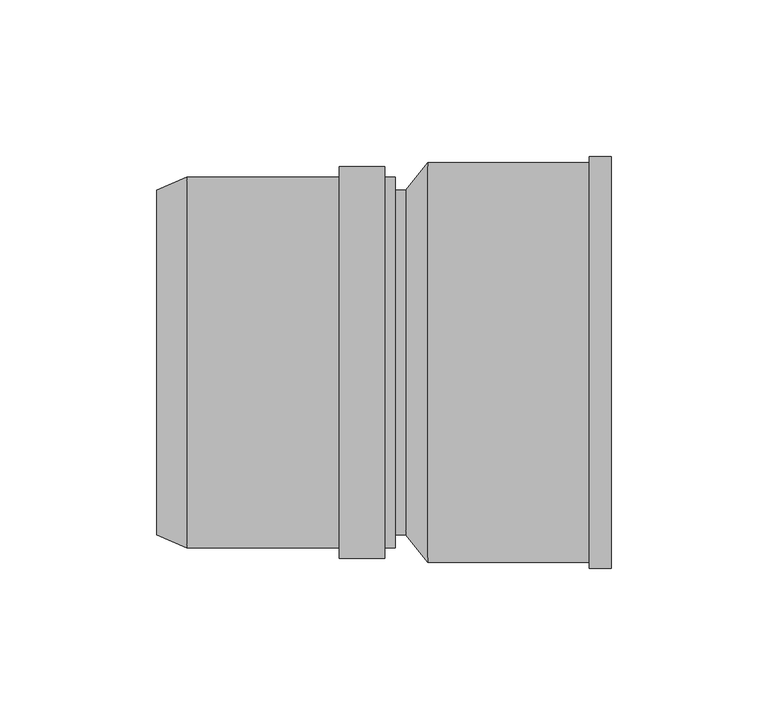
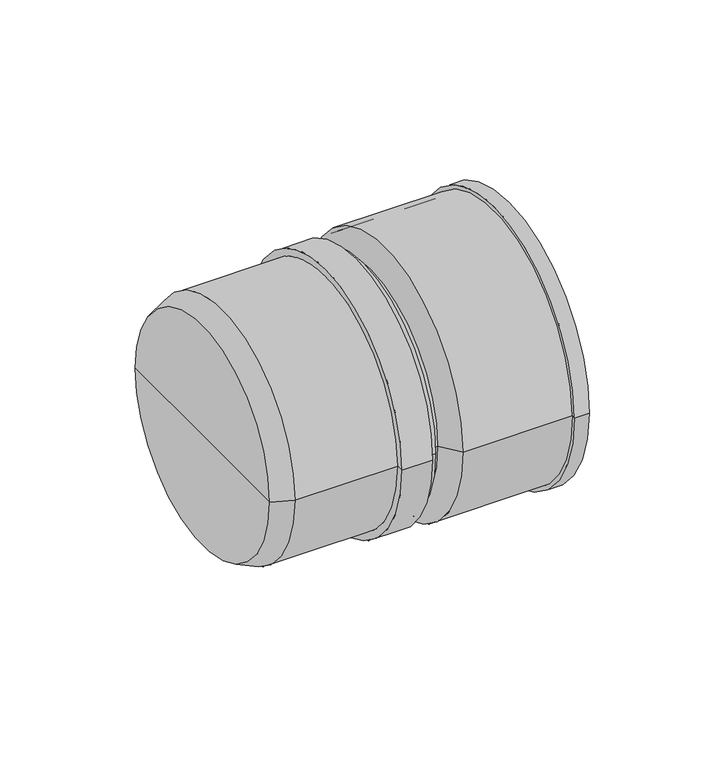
"""IFC4 building model written with IfcOpenShell, lengths in millimetres: pipe fitting geometry, pf_HTUG : pf_HTUG."""

from ifc_helpers import new_model, si_unit, point, frame, origin, origin_2d, place, context, project, spatial, polyline, circle_curve, trimmed, segment, composite_curve, outline, extrude, source, transform, mapped, element, save
from ifc_brep_helpers import plane_surface, cylinder_surface, revolved_surface, advanced_brep


def pipe_fitting_55c88e06(model_context):
    return source(origin(), model_context, "Body", "SolidModel", [
        advanced_brep(
        [(-79.3, -55.0, 0.0), (-79.3, 55.0, 0.0), (-69.8, 59.1, 0.0), (-69.8, -59.1, 0.0), (-79.3, 0.0, 0.0), (-3.3, -59.1, 0.0), (-3.3, 59.1, 0.0), (-3.3, 55.0, 0.0), (-3.3, -55.0, 0.0), (-6.7, -59.1, 0.0), (-6.7, 59.1, 0.0), (-6.7, -62.5, 0.0), (-6.7, 62.5, 0.0), (-21.2, -62.5, 0.0), (-21.2, 62.5, 0.0), (-21.2, -59.1, 0.0), (-21.2, 59.1, 0.0), (-69.8, -55.0, 0.0), (-69.8, 55.0, 0.0), (-69.8, 0.0, 0.0)],
        [
            (0, 1, circle_curve(frame((-79.3, 0.0, 0.0), z_axis=(1.0, 0.0, 0.0), x_axis=(0.0, 1.0, 0.0)), 55.0)),
            (1, 2),
            (2, 3, circle_curve(frame((-69.8, 0.0, 0.0), z_axis=(-1.0, 0.0, 0.0), x_axis=(0.0, 1.0, 0.0)), 59.1)),
            (3, 0),
            (1, 0, circle_curve(frame((-79.3, 0.0, 0.0), z_axis=(1.0, 0.0, 0.0), x_axis=(0.0, 1.0, 0.0)), 55.0)),
            (3, 2, circle_curve(frame((-69.8, 0.0, 0.0), z_axis=(-1.0, 0.0, 0.0), x_axis=(0.0, 1.0, 0.0)), 59.1)),
            (4, 1),
            (0, 4),
            (5, 6, circle_curve(frame((-3.3, 0.0, 0.0), z_axis=(1.0, 0.0, 0.0), x_axis=(0.0, 1.0, 0.0)), 59.1)),
            (6, 7),
            (7, 8, circle_curve(frame((-3.3, 0.0, 0.0), z_axis=(-1.0, 0.0, 0.0), x_axis=(0.0, 1.0, 0.0)), 55.0)),
            (8, 5),
            (6, 5, circle_curve(frame((-3.3, 0.0, 0.0), z_axis=(1.0, 0.0, 0.0), x_axis=(0.0, 1.0, 0.0)), 59.1)),
            (8, 7, circle_curve(frame((-3.3, 0.0, 0.0), z_axis=(-1.0, 0.0, 0.0), x_axis=(0.0, 1.0, 0.0)), 55.0)),
            (9, 10, circle_curve(frame((-6.7, 0.0, 0.0), z_axis=(1.0, 0.0, 0.0), x_axis=(0.0, 1.0, 0.0)), 59.1)),
            (10, 6),
            (5, 9),
            (10, 9, circle_curve(frame((-6.7, 0.0, 0.0), z_axis=(1.0, 0.0, 0.0), x_axis=(0.0, 1.0, 0.0)), 59.1)),
            (11, 12, circle_curve(frame((-6.7, 0.0, 0.0), z_axis=(1.0, 0.0, 0.0), x_axis=(0.0, 1.0, 0.0)), 62.5)),
            (12, 10),
            (9, 11),
            (12, 11, circle_curve(frame((-6.7, 0.0, 0.0), z_axis=(1.0, 0.0, 0.0), x_axis=(0.0, 1.0, 0.0)), 62.5)),
            (13, 14, circle_curve(frame((-21.2, 0.0, 0.0), z_axis=(1.0, 0.0, 0.0), x_axis=(0.0, 1.0, 0.0)), 62.5)),
            (14, 12),
            (11, 13),
            (14, 13, circle_curve(frame((-21.2, 0.0, 0.0), z_axis=(1.0, 0.0, 0.0), x_axis=(0.0, 1.0, 0.0)), 62.5)),
            (15, 16, circle_curve(frame((-21.2, 0.0, 0.0), z_axis=(1.0, 0.0, 0.0), x_axis=(0.0, 1.0, 0.0)), 59.1)),
            (16, 14),
            (13, 15),
            (16, 15, circle_curve(frame((-21.2, 0.0, 0.0), z_axis=(1.0, 0.0, 0.0), x_axis=(0.0, 1.0, 0.0)), 59.1)),
            (2, 16),
            (15, 3),
            (17, 18, circle_curve(frame((-69.8, 0.0, 0.0), z_axis=(1.0, 0.0, 0.0), x_axis=(0.0, 1.0, 0.0)), 55.0)),
            (18, 19),
            (19, 17),
            (18, 17, circle_curve(frame((-69.8, 0.0, 0.0), z_axis=(1.0, 0.0, 0.0), x_axis=(0.0, 1.0, 0.0)), 55.0)),
            (7, 18),
            (17, 8),
        ],
        [
            revolved_surface(polyline([(-69.8, 59.1, 0.0), (-79.3, 55.0, 0.0)]), (-79.3, 0.0, 0.0), (-1.0, 0.0, 0.0)),
            plane_surface(frame((-79.3, 0.0, 0.0), z_axis=(-1.0, 0.0, 0.0), x_axis=(0.0, 1.0, 0.0))),
            plane_surface(frame((-3.3, 0.0, 0.0), z_axis=(1.0, 0.0, 0.0), x_axis=(0.0, 1.0, 0.0))),
            cylinder_surface(frame((-79.3, 0.0, 0.0), z_axis=(-1.0, 0.0, 0.0), x_axis=(0.0, 1.0, 0.0)), 59.1),
            plane_surface(frame((-6.7, 0.0, 0.0), z_axis=(1.0, 0.0, 0.0), x_axis=(0.0, 1.0, 0.0))),
            cylinder_surface(frame((-79.3, 0.0, 0.0), z_axis=(-1.0, 0.0, 0.0), x_axis=(0.0, 1.0, 0.0)), 62.5),
            plane_surface(frame((-21.2, 0.0, 0.0), z_axis=(-1.0, 0.0, 0.0), x_axis=(0.0, 1.0, 0.0))),
            plane_surface(frame((-69.8, 0.0, 0.0), z_axis=(1.0, 0.0, 0.0), x_axis=(0.0, 1.0, 0.0))),
            revolved_surface(polyline([(-69.8, 55.0, 0.0), (-3.299999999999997, 55.0, 0.0)]), (-79.3, 0.0, 0.0), (-1.0, 0.0, 0.0)),
        ],
        [
            (0, [[1, 2, 3, 4]]),
            (0, [[5, -4, 6, -2]]),
            (1, [[7, -1, 8]]),
            (1, [[-8, -5, -7]]),
            (2, [[9, 10, 11, 12]]),
            (2, [[13, -12, 14, -10]]),
            (3, [[15, 16, -9, 17]]),
            (3, [[18, -17, -13, -16]]),
            (4, [[19, 20, -15, 21]]),
            (4, [[22, -21, -18, -20]]),
            (5, [[23, 24, -19, 25]]),
            (5, [[26, -25, -22, -24]]),
            (6, [[27, 28, -23, 29]]),
            (6, [[30, -29, -26, -28]]),
            (3, [[-3, 31, -27, 32]]),
            (3, [[-6, -32, -30, -31]]),
            (7, [[33, 34, 35]]),
            (7, [[36, -35, -34]]),
            (8, [[-11, 37, -33, 38]]),
            (8, [[-14, -38, -36, -37]]),
        ],
    ),
        extrude(outline(composite_curve([segment(trimmed(circle_curve(origin_2d(), 55.0), [point((-55.0, 0.0))], [point((55.0, 0.0))], False, "CARTESIAN"), True, "CONTINUOUS"), segment(trimmed(circle_curve(origin_2d(), 55.0), [point((55.0, 0.0))], [point((-55.0, 0.0))], False, "CARTESIAN"), True, "CONTINUOUS")], self_intersect=False)), frame((-3.3, 0.0, 0.0), z_axis=(1.0, 0.0, 0.0), x_axis=(0.0, 1.0, 0.0)), (0.0, 0.0, 1.0), 3.3),
        advanced_brep(
        [(65.5, -62.0, 0.0), (65.5, 62.0, 0.0), (7.0, 62.0, 0.0), (7.0, -62.0, 0.0), (65.5, -65.6, 0.0), (65.5, 65.6, 0.0), (7.0, -63.8, 0.0), (7.0, 63.8, 0.0), (58.5184027, 63.8, 0.0), (58.5184027, -63.8, 0.0), (0.0, -55.0, 0.0), (0.0, 55.0, 0.0), (0.0, 0.0, 0.0), (58.5184027, 65.6, 0.0), (58.5184027, -65.6, 0.0), (7.0, 0.0, 0.0)],
        [
            (0, 1, circle_curve(frame((65.5, 0.0, 0.0), z_axis=(1.0, 0.0, 0.0), x_axis=(0.0, 1.0, 0.0)), 62.0)),
            (1, 2),
            (2, 3, circle_curve(frame((7.0, 0.0, 0.0), z_axis=(-1.0, 0.0, 0.0), x_axis=(0.0, 1.0, 0.0)), 62.0)),
            (3, 0),
            (4, 5, circle_curve(frame((65.5, 0.0, 0.0), z_axis=(1.0, 0.0, 0.0), x_axis=(0.0, 1.0, 0.0)), 65.6)),
            (5, 1),
            (0, 4),
            (6, 7, circle_curve(frame((7.0, 0.0, 0.0), z_axis=(1.0, 0.0, 0.0), x_axis=(0.0, 1.0, 0.0)), 63.8)),
            (7, 8),
            (8, 9, circle_curve(frame((58.5184027, 0.0, 0.0), z_axis=(-1.0, 0.0, 0.0), x_axis=(0.0, 1.0, 0.0)), 63.8)),
            (9, 6),
            (10, 11, circle_curve(frame((0.0, 0.0, 0.0), z_axis=(1.0, 0.0, 0.0), x_axis=(0.0, 1.0, 0.0)), 55.0)),
            (11, 7),
            (6, 10),
            (12, 11),
            (10, 12),
            (8, 13),
            (13, 14, circle_curve(frame((58.5184027, 0.0, 0.0), z_axis=(-1.0, 0.0, 0.0), x_axis=(0.0, 1.0, 0.0)), 65.6)),
            (14, 9),
            (1, 0, circle_curve(frame((65.5, 0.0, 0.0), z_axis=(1.0, 0.0, 0.0), x_axis=(0.0, 1.0, 0.0)), 62.0)),
            (3, 2, circle_curve(frame((7.0, 0.0, 0.0), z_axis=(-1.0, 0.0, 0.0), x_axis=(0.0, 1.0, 0.0)), 62.0)),
            (5, 4, circle_curve(frame((65.5, 0.0, 0.0), z_axis=(1.0, 0.0, 0.0), x_axis=(0.0, 1.0, 0.0)), 65.6)),
            (13, 5),
            (4, 14),
            (13, 14, circle_curve(frame((58.5184027, 0.0, 0.0), z_axis=(1.0, 0.0, 0.0), x_axis=(0.0, 1.0, 0.0)), 65.6)),
            (8, 9, circle_curve(frame((58.5184027, 0.0, 0.0), z_axis=(1.0, 0.0, 0.0), x_axis=(0.0, 1.0, 0.0)), 63.8)),
            (7, 6, circle_curve(frame((7.0, 0.0, 0.0), z_axis=(1.0, 0.0, 0.0), x_axis=(0.0, 1.0, 0.0)), 63.8)),
            (11, 10, circle_curve(frame((0.0, 0.0, 0.0), z_axis=(1.0, 0.0, 0.0), x_axis=(0.0, 1.0, 0.0)), 55.0)),
            (2, 15),
            (15, 3),
        ],
        [
            revolved_surface(polyline([(7.0, 62.0, 0.0), (65.5, 62.0, 0.0)]), (71.5, 0.0, 0.0), (-1.0, 0.0, 0.0)),
            plane_surface(frame((65.5, 0.0, 0.0), z_axis=(1.0, 0.0, 0.0), x_axis=(0.0, 1.0, 0.0))),
            cylinder_surface(frame((71.5, 0.0, 0.0), z_axis=(-1.0, 0.0, 0.0), x_axis=(0.0, 1.0, 0.0)), 63.8),
            revolved_surface(polyline([(7.0, 63.8, 0.0), (0.0, 55.0, 0.0)]), (71.5, 0.0, 0.0), (-1.0, 0.0, 0.0)),
            plane_surface(frame((0.0, 0.0, 0.0), z_axis=(-1.0, 0.0, 0.0), x_axis=(0.0, 1.0, 0.0))),
            plane_surface(frame((58.5184027, 0.0, 0.0), z_axis=(-1.0, 0.0, 0.0), x_axis=(0.0, 1.0, 0.0))),
            cylinder_surface(frame((71.5, 0.0, 0.0), z_axis=(-1.0, 0.0, 0.0), x_axis=(0.0, 1.0, 0.0)), 65.6),
            plane_surface(frame((7.0, 0.0, 0.0), z_axis=(1.0, 0.0, 0.0), x_axis=(0.0, 1.0, 0.0))),
        ],
        [
            (0, [[1, 2, 3, 4]]),
            (1, [[5, 6, -1, 7]]),
            (2, [[8, 9, 10, 11]]),
            (3, [[12, 13, -8, 14]]),
            (4, [[15, -12, 16]]),
            (5, [[-10, 17, 18, 19]]),
            (0, [[20, -4, 21, -2]]),
            (1, [[22, -7, -20, -6]]),
            (6, [[-18, 23, -5, 24]]),
            (6, [[25, -24, -22, -23]]),
            (5, [[26, -19, -25, -17]]),
            (2, [[27, -11, -26, -9]]),
            (3, [[28, -14, -27, -13]]),
            (4, [[-16, -28, -15]]),
            (7, [[-3, 29, 30]]),
            (7, [[-21, -30, -29]]),
        ],
    ),
    ])


if __name__ == "__main__":
    model = new_model("IFC4")
    model_context = context("Model", 3, world=origin())
    ifc_project = project(units=[si_unit("LENGTHUNIT", "METRE", prefix="MILLI")], contexts=[model_context])
    site = spatial("IfcSite", under=ifc_project)
    building = spatial("IfcBuilding", under=site)
    placement = place(None, origin())
    pipe_fitting_shape = pipe_fitting_55c88e06(model_context)
    element("IfcPipeFitting", 1, ObjectType="pf_HTUG : pf_HTUG", at=placement, inside=building, context=model_context, shape_type="MappedRepresentation", body=[
        mapped(pipe_fitting_shape, transform((0.0, 0.0, 0.0), x_axis=(1.0, 0.0, 0.0), y_axis=(0.0, 1.0, 0.0), z_axis=(0.0, 0.0, 1.0))),
    ])
    save(model, "model.ifc")
